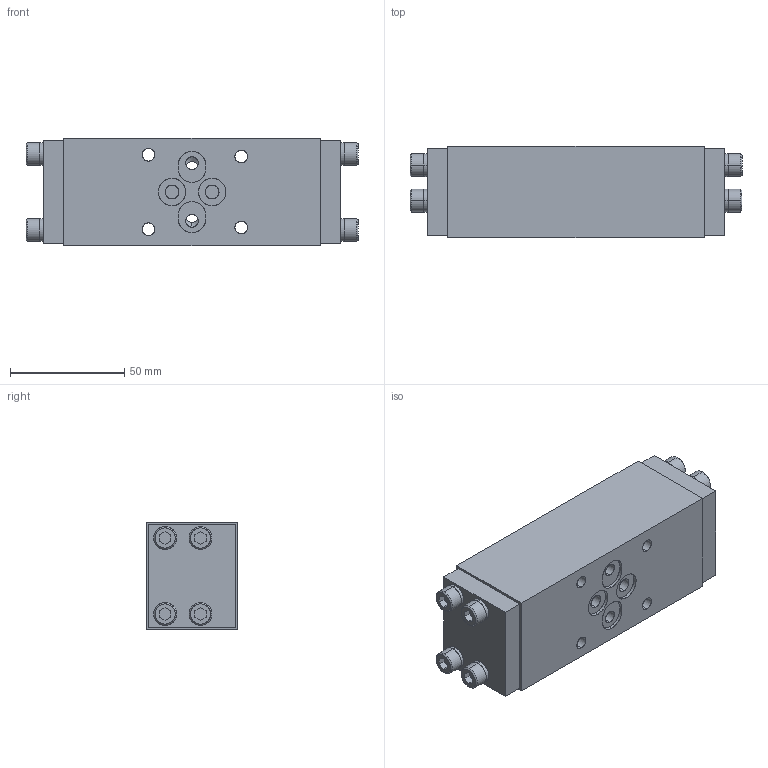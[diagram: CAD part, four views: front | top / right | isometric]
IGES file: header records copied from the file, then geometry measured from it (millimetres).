
Start section: SolidWorks IGES file using analytic representation for surfaces
Global section: file name: L:\•ÏŠ·’†STEP\BSP3x0-0W.igs; native system: SolidWorks 2009; preprocessor: SolidWorks 2009; author: D211; date: 100316.112141; units: millimetre
Bounding box: 145 x 40 x 47 mm (x, y, z)
Surface area: 42260.1 mm2 (no closed solid volume)
Topology: 0 solids, 0 shells, 221 faces, 3358 edges, 3358 vertices
Faces by surface type: bspline 120, revolution 101
